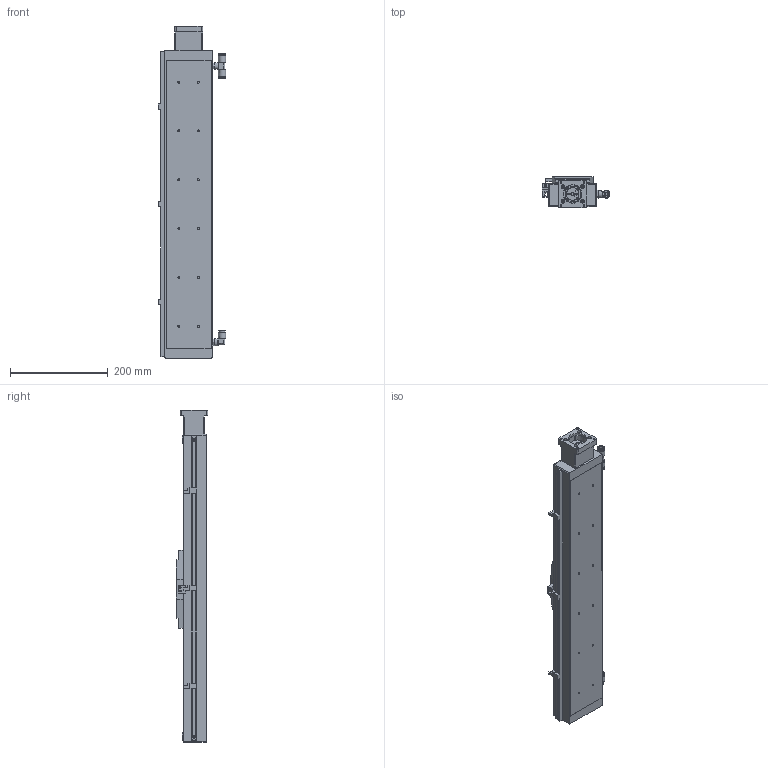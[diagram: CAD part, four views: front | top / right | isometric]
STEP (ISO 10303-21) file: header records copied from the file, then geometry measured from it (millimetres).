
FILE_DESCRIPTION((''),'2;1');
FILE_NAME('E:\libraries\UIA actuator library 2016\Clean room actuator\UIA098CR12DC\UIA098CR12 stp file 05May16\UIA098CR12DC-400-R16_ _-M23-P13-C10-S.stp','2016-05-09T14:50:15',('h029'),(''),'Autodesk Inventor 11','Autodesk Inventor 11','');
FILE_SCHEMA(('AUTOMOTIVE_DESIGN { 1 0 10303 214 1 1 1 1 }'));
Length unit declared in the file: millimetre
Products named in the file (12): UIA098CR12DC-400; body, UIA098CR12DC-400; carriage, UIA098CR12DC; Sensor Switch, UIA098CR12DC; Motor mount; SOH-25C; SOH-25C-2; SOH-25C-3; SOH-25C-1; Sensor Rail, UIA098CR12DC-400_MIR; vacuum port 1, UIA098CR12DC_MIR; vacuum port 2, UIA098CR12DC_MIR
Assembly tree (11 placements, depth 3):
  UIA098CR12DC-400
    body, UIA098CR12DC-400
    carriage, UIA098CR12DC
    Sensor Switch, UIA098CR12DC
    Motor mount
    SOH-25C
      SOH-25C-2
      SOH-25C-3
      SOH-25C-1
    Sensor Rail, UIA098CR12DC-400_MIR
    vacuum port 1, UIA098CR12DC_MIR
    vacuum port 2, UIA098CR12DC_MIR
Bounding box: 138.4 x 65.5 x 680 mm (x, y, z)
Volume: 3068770.3 mm3; surface area: 311830.1 mm2
Topology: 10 solids, 10 shells, 668 faces, 1737 edges, 1132 vertices
Faces by surface type: plane 295, bspline 284, cylinder 86, cone 3
Full cylindrical faces by diameter (mm): 3 x3, 5.6 x8, 8 x4, 9 x2, 10 x1, 13 x1, 15 x2, 18 x1, 25.5 x3, 37 x1, 38.1 x1
Entity records: 21659 total; most frequent: CARTESIAN_POINT 6364, ORIENTED_EDGE 3104, DIRECTION 2729, EDGE_CURVE 1552, VECTOR 1123, LINE 1123, VERTEX_POINT 1074, EDGE_LOOP 922
